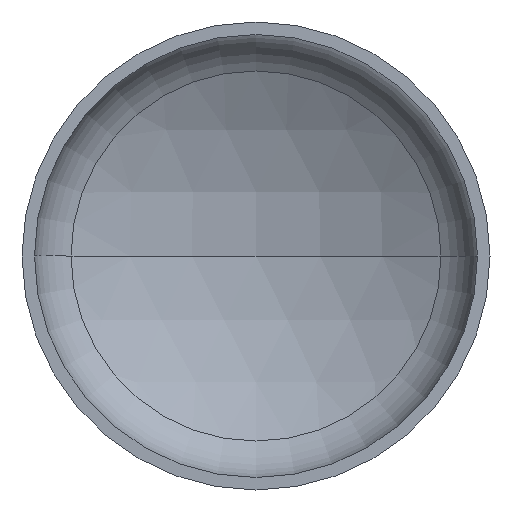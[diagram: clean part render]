
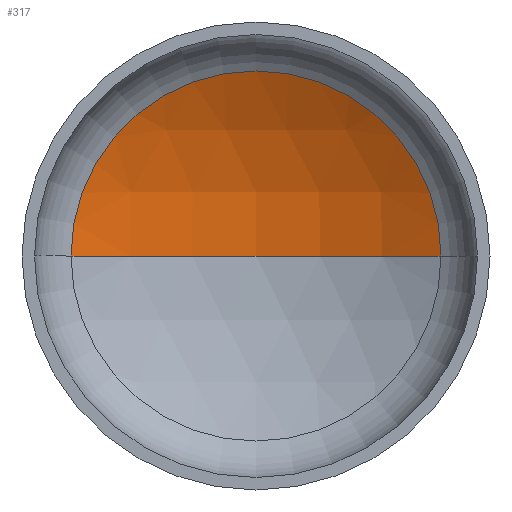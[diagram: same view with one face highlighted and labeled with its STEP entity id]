
A CAD part, front view. The second image highlights one B-rep face of the part: STEP entity #317.
In plain terms, the highlighted spherical face has radius 1920 mm.
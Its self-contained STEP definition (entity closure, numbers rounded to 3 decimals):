
#3 = CARTESIAN_POINT ( 'NONE',  ( 0., 441.66, 0. ) ) ;
#7 = ORIENTED_EDGE ( 'NONE', *, *, #181, .T. ) ;
#15 = CIRCLE ( 'NONE', #38, 1920. ) ;
#24 = AXIS2_PLACEMENT_3D ( 'NONE', #138, #101, #148 ) ;
#28 = VERTEX_POINT ( 'NONE', #264 ) ;
#38 = AXIS2_PLACEMENT_3D ( 'NONE', #276, #239, #238 ) ;
#43 = AXIS2_PLACEMENT_3D ( 'NONE', #261, #259, #249 ) ;
#46 = AXIS2_PLACEMENT_3D ( 'NONE', #3, #381, #338 ) ;
#64 = CIRCLE ( 'NONE', #43, 1920. ) ;
#78 = ORIENTED_EDGE ( 'NONE', *, *, #190, .F. ) ;
#101 = DIRECTION ( 'NONE',  ( 0., 0., -1. ) ) ;
#104 = VERTEX_POINT ( 'NONE', #232 ) ;
#138 = CARTESIAN_POINT ( 'NONE',  ( 0., -1227.495, 0. ) ) ;
#148 = DIRECTION ( 'NONE',  ( -1., 0., 0. ) ) ;
#156 = EDGE_CURVE ( 'NONE', #104, #28, #364, .T. ) ;
#160 = VERTEX_POINT ( 'NONE', #283 ) ;
#181 = EDGE_CURVE ( 'NONE', #160, #104, #64, .T. ) ;
#185 = EDGE_LOOP ( 'NONE', ( #78, #7, #268 ) ) ;
#190 = EDGE_CURVE ( 'NONE', #160, #28, #15, .T. ) ;
#223 = SPHERICAL_SURFACE ( 'NONE', #24, 1920. ) ;
#232 = CARTESIAN_POINT ( 'NONE',  ( 948.852, 441.66, 0. ) ) ;
#238 = DIRECTION ( 'NONE',  ( 1., 0., 0. ) ) ;
#239 = DIRECTION ( 'NONE',  ( 0., 0., 1. ) ) ;
#249 = DIRECTION ( 'NONE',  ( -1., 0., 0. ) ) ;
#259 = DIRECTION ( 'NONE',  ( 0., 0., -1. ) ) ;
#261 = CARTESIAN_POINT ( 'NONE',  ( 0., -1227.495, 0. ) ) ;
#264 = CARTESIAN_POINT ( 'NONE',  ( -948.852, 441.66, 0. ) ) ;
#268 = ORIENTED_EDGE ( 'NONE', *, *, #156, .T. ) ;
#276 = CARTESIAN_POINT ( 'NONE',  ( 0., -1227.495, 0. ) ) ;
#283 = CARTESIAN_POINT ( 'NONE',  ( 0., 692.505, 0. ) ) ;
#317 = ADVANCED_FACE ( 'NONE', ( #333 ), #223, .F. ) ;
#333 = FACE_OUTER_BOUND ( 'NONE', #185, .T. ) ;
#338 = DIRECTION ( 'NONE',  ( 1., 0., 0. ) ) ;
#364 = CIRCLE ( 'NONE', #46, 948.852 ) ;
#381 = DIRECTION ( 'NONE',  ( 0., -1., 0. ) ) ;
